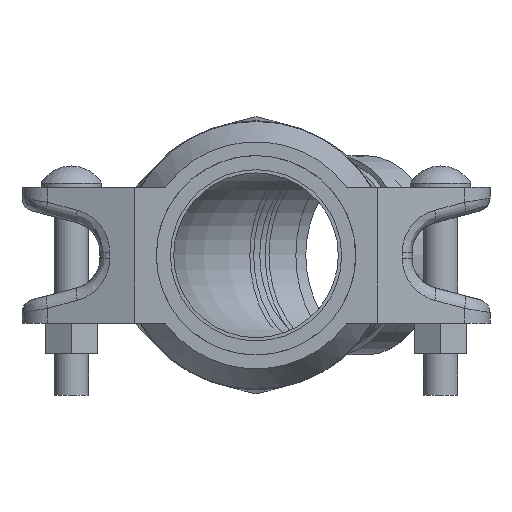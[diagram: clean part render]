
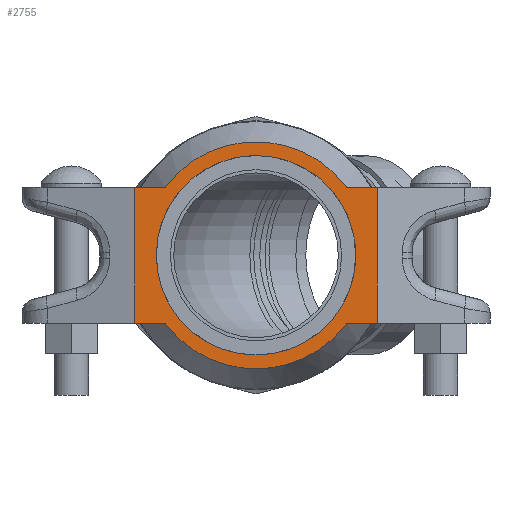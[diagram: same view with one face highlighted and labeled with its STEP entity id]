
A CAD part, left-side view. The second image highlights one B-rep face of the part: STEP entity #2755.
In plain terms, the highlighted planar face has unit normal (-1, 0, 0) as drawn and (0, 0, 1) by its records, which use the part's own axes.
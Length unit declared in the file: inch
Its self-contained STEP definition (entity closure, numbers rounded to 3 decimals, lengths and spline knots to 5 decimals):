
#197=LINE('',#4923,#370);
#250=LINE('',#5108,#423);
#251=LINE('',#5110,#424);
#252=LINE('',#5112,#425);
#253=LINE('',#5115,#426);
#254=LINE('',#5116,#427);
#370=VECTOR('',#3613,0.3937);
#423=VECTOR('',#3794,0.3937);
#424=VECTOR('',#3795,0.3937);
#425=VECTOR('',#3796,0.3937);
#426=VECTOR('',#3799,0.3937);
#427=VECTOR('',#3800,0.3937);
#547=FACE_BOUND('',#814,.T.);
#650=FACE_OUTER_BOUND('',#813,.T.);
#813=EDGE_LOOP('',(#2104,#2105,#2106,#2107,#2108,#2109,#2110,#2111));
#814=EDGE_LOOP('',(#2112,#2113));
#917=CIRCLE('',#2965,1.4375);
#918=CIRCLE('',#2966,1.4375);
#987=CIRCLE('',#3129,1.6375);
#988=CIRCLE('',#3130,1.6375);
#1061=VERTEX_POINT('',#4149);
#1062=VERTEX_POINT('',#4151);
#1152=VERTEX_POINT('',#4920);
#1153=VERTEX_POINT('',#4922);
#1219=VERTEX_POINT('',#5104);
#1220=VERTEX_POINT('',#5105);
#1221=VERTEX_POINT('',#5107);
#1222=VERTEX_POINT('',#5109);
#1223=VERTEX_POINT('',#5111);
#1224=VERTEX_POINT('',#5113);
#1331=EDGE_CURVE('',#1062,#1061,#917,.T.);
#1332=EDGE_CURVE('',#1061,#1062,#918,.T.);
#1467=EDGE_CURVE('',#1152,#1153,#197,.T.);
#1553=EDGE_CURVE('',#1219,#1220,#987,.T.);
#1554=EDGE_CURVE('',#1221,#1219,#250,.T.);
#1555=EDGE_CURVE('',#1221,#1222,#251,.T.);
#1556=EDGE_CURVE('',#1223,#1222,#252,.T.);
#1557=EDGE_CURVE('',#1224,#1223,#988,.T.);
#1558=EDGE_CURVE('',#1153,#1224,#253,.T.);
#1559=EDGE_CURVE('',#1220,#1152,#254,.T.);
#2104=ORIENTED_EDGE('',*,*,#1553,.F.);
#2105=ORIENTED_EDGE('',*,*,#1554,.F.);
#2106=ORIENTED_EDGE('',*,*,#1555,.T.);
#2107=ORIENTED_EDGE('',*,*,#1556,.F.);
#2108=ORIENTED_EDGE('',*,*,#1557,.F.);
#2109=ORIENTED_EDGE('',*,*,#1558,.F.);
#2110=ORIENTED_EDGE('',*,*,#1467,.F.);
#2111=ORIENTED_EDGE('',*,*,#1559,.F.);
#2112=ORIENTED_EDGE('',*,*,#1331,.T.);
#2113=ORIENTED_EDGE('',*,*,#1332,.T.);
#2485=PLANE('',#3128);
#2755=ADVANCED_FACE('',(#650,#547),#2485,.T.);
#2965=AXIS2_PLACEMENT_3D('',#4152,#3352,#3353);
#2966=AXIS2_PLACEMENT_3D('',#4153,#3354,#3355);
#3128=AXIS2_PLACEMENT_3D('',#5103,#3790,#3791);
#3129=AXIS2_PLACEMENT_3D('',#5106,#3792,#3793);
#3130=AXIS2_PLACEMENT_3D('',#5114,#3797,#3798);
#3352=DIRECTION('center_axis',(0.,0.,-1.));
#3353=DIRECTION('ref_axis',(-1.,0.,0.));
#3354=DIRECTION('center_axis',(0.,0.,-1.));
#3355=DIRECTION('ref_axis',(-1.,0.,0.));
#3613=DIRECTION('',(0.,1.,0.));
#3790=DIRECTION('center_axis',(0.,0.,1.));
#3791=DIRECTION('ref_axis',(-1.,0.,0.));
#3792=DIRECTION('center_axis',(0.,0.,-1.));
#3793=DIRECTION('ref_axis',(-1.,0.,0.));
#3794=DIRECTION('',(-1.,0.,0.));
#3795=DIRECTION('',(0.,1.,0.));
#3796=DIRECTION('',(1.,0.,0.));
#3797=DIRECTION('center_axis',(0.,0.,-1.));
#3798=DIRECTION('ref_axis',(-1.,0.,0.));
#3799=DIRECTION('',(1.,0.,0.));
#3800=DIRECTION('',(-1.,0.,0.));
#4149=CARTESIAN_POINT('',(0.,1.4375,1.065));
#4151=CARTESIAN_POINT('',(-1.05167,-0.98,1.065));
#4152=CARTESIAN_POINT('Origin',(0.,0.,1.065));
#4153=CARTESIAN_POINT('Origin',(0.,0.,1.065));
#4920=CARTESIAN_POINT('',(-1.75,-0.98,1.065));
#4922=CARTESIAN_POINT('',(-1.75,0.98,1.065));
#4923=CARTESIAN_POINT('',(-1.75,0.,1.065));
#5103=CARTESIAN_POINT('Origin',(0.,-1.6375,1.065));
#5104=CARTESIAN_POINT('',(1.31187,-0.98,1.065));
#5105=CARTESIAN_POINT('',(-1.31187,-0.98,1.065));
#5106=CARTESIAN_POINT('Origin',(0.,0.,1.065));
#5107=CARTESIAN_POINT('',(1.75,-0.98,1.065));
#5108=CARTESIAN_POINT('',(-1.75,-0.98,1.065));
#5109=CARTESIAN_POINT('',(1.75,0.98,1.065));
#5110=CARTESIAN_POINT('',(1.75,0.,1.065));
#5111=CARTESIAN_POINT('',(1.31187,0.98,1.065));
#5112=CARTESIAN_POINT('',(-1.75,0.98,1.065));
#5113=CARTESIAN_POINT('',(-1.31187,0.98,1.065));
#5114=CARTESIAN_POINT('Origin',(0.,0.,1.065));
#5115=CARTESIAN_POINT('',(-1.75,0.98,1.065));
#5116=CARTESIAN_POINT('',(-1.75,-0.98,1.065));
